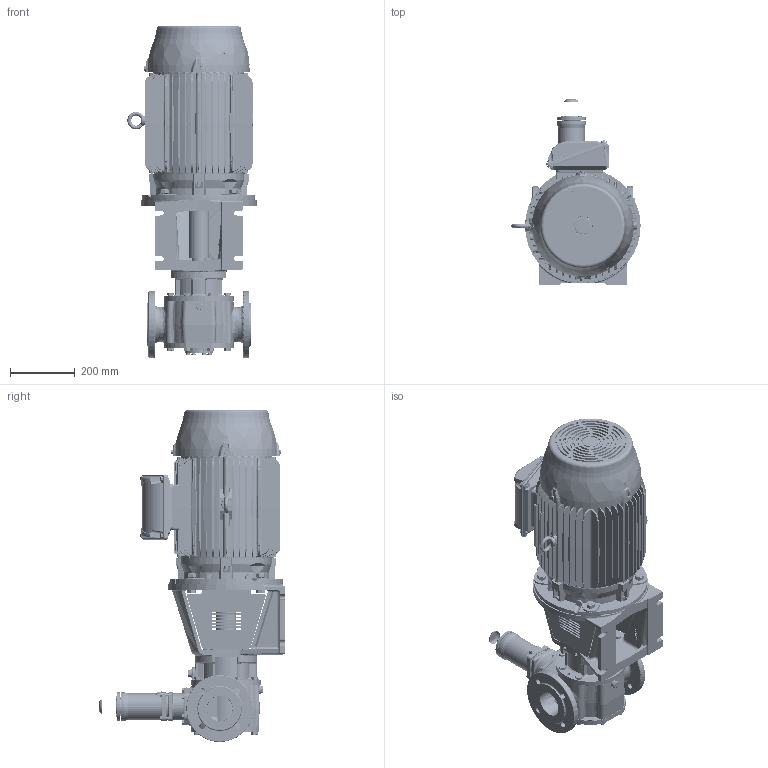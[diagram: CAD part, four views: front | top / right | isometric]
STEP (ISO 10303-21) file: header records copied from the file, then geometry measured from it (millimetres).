
FILE_DESCRIPTION(/* description */ (''),/* implementation_level */ '2;1');
FILE_NAME(/* name */ 'C:\V\JPP\Designs\GEAR PUMPS\PRODUCT ENGINEERING\EUROPE\TG BLOC\TG BLOC_58-80_R3_O_RV1-_160L-STEP.stp',/* time_stamp */ '2021-03-19T11:41:40+01:00',/* author */ ('A77THR'),/* organization */ (''),/* preprocessor_version */ 'ST-DEVELOPER v18.1',/* originating_system */ 'Autodesk Inventor 2020',/* authorisation */ '');
FILE_SCHEMA (('AUTOMOTIVE_DESIGN { 1 0 10303 214 3 1 1 }'));
Length unit declared in the file: millimetre
Products named in the file (1): TG BLOC_58-80_R3_O_RV1-_160L
Bounding box: 397.99 x 571 x 1022.4 mm (x, y, z)
Volume: 53306339.7 mm3; surface area: 2671654.1 mm2
Topology: 1 solids, 1 shells, 4994 faces, 13012 edges, 8232 vertices
Faces by surface type: plane 2077, cylinder 1139, bspline 920, cone 676, torus 132, sphere 50
Full cylindrical faces by diameter (mm): 4 x1, 4.5 x8, 4.917 x8, 5 x4, 5.459 x4, 6 x4, 6.647 x1, 6.8 x2, 7 x8, 7.323 x18, 7.5 x3, 8 x27, 8.7 x4, 9 x18, 9.4 x1, 10 x8, 10.106 x7, 10.2 x2, 11.053 x4, 11.4 x18, 11.445 x2, 11.6 x7, 12 x4, 12.5 x3, 13 x5, 13.157 x2, 13.2 x2, 14 x8, 15.011 x2, 16 x1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
Entity records: 196941 total; most frequent: CARTESIAN_POINT 76601, ORIENTED_EDGE 25834, DIRECTION 22425, EDGE_CURVE 12917, AXIS2_PLACEMENT_3D 8649, VERTEX_POINT 8224, EDGE_LOOP 5449, LINE 5127
